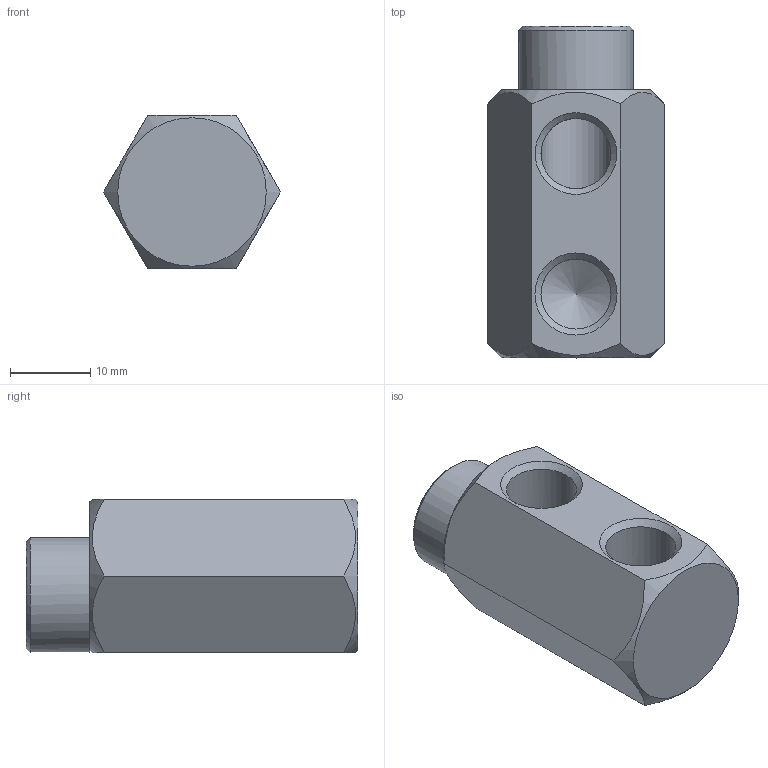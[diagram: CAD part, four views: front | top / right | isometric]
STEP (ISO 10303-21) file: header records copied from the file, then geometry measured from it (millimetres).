
FILE_DESCRIPTION(/* description */ (''),/* implementation_level */ '2;1');
FILE_NAME(/* name */ 'C:/Users/drich/Desktop/HF186H v1.step',/* time_stamp */ '2019-11-18T13:49:31-06:00',/* author */ (''),/* organization */ (''),/* preprocessor_version */ 'ST-DEVELOPER v18',/* originating_system */ 'Autodesk Translation Framework v8.12.0.6',/* authorisation */ '');
FILE_SCHEMA (('AUTOMOTIVE_DESIGN { 1 0 10303 214 3 1 1 }'));
Length unit declared in the file: inch
Products named in the file (2): HF186H; HF181H
Assembly tree (1 placements, depth 2):
  HF186H
    HF181H
Bounding box: 22 x 41.25 x 19.05 mm (x, y, z)
Volume: 8751.2 mm3; surface area: 4272.1 mm2
Topology: 1 solids, 1 shells, 25 faces, 64 edges, 41 vertices
Faces by surface type: cone 10, plane 10, cylinder 5
Full cylindrical faces by diameter (mm): 5.474 x1, 8.707 x3, 14.275 x1
Entity records: 852 total; most frequent: CARTESIAN_POINT 205, DIRECTION 127, ORIENTED_EDGE 126, EDGE_CURVE 63, AXIS2_PLACEMENT_3D 54, VERTEX_POINT 41, EDGE_LOOP 30, FACE_OUTER_BOUND 25
